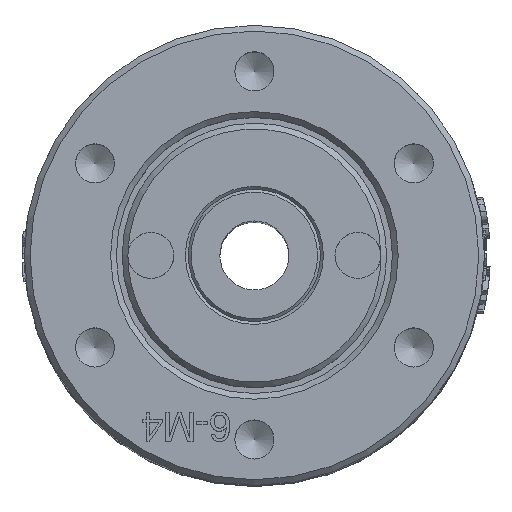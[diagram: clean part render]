
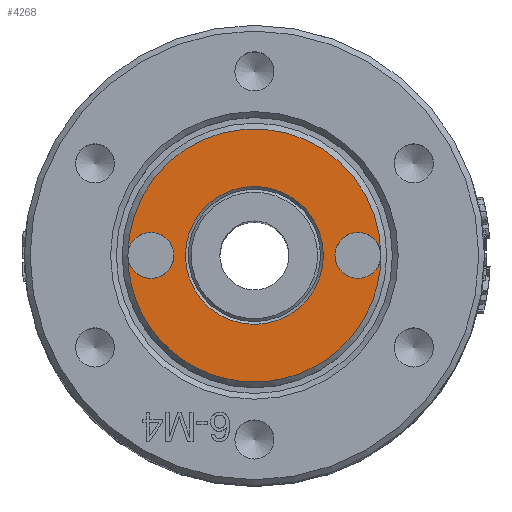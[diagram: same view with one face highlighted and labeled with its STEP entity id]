
A CAD part, top view. The second image highlights one B-rep face of the part: STEP entity #4268.
In plain terms, the highlighted planar face has unit normal (0, 0, 1).
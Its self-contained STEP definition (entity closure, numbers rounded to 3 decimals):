
#330=FACE_BOUND('',#6624,.T.);
#331=FACE_BOUND('',#6625,.T.);
#953=PLANE('',#21811);
#4268=ADVANCED_FACE('',(#330,#331),#953,.T.);
#6624=EDGE_LOOP('',(#13818,#13819,#13820,#13821));
#6625=EDGE_LOOP('',(#13822));
#13818=ORIENTED_EDGE('',*,*,#20349,.T.);
#13819=ORIENTED_EDGE('',*,*,#20347,.T.);
#13820=ORIENTED_EDGE('',*,*,#20348,.T.);
#13821=ORIENTED_EDGE('',*,*,#20346,.T.);
#13822=ORIENTED_EDGE('',*,*,#20351,.T.);
#17470=VERTEX_POINT('',#39999);
#17471=VERTEX_POINT('',#40002);
#17473=VERTEX_POINT('',#40010);
#20346=EDGE_CURVE('',#17470,#17470,#21012,.T.);
#20347=EDGE_CURVE('',#17471,#17471,#21013,.T.);
#20348=EDGE_CURVE('',#17471,#17470,#21014,.T.);
#20349=EDGE_CURVE('',#17470,#17471,#21015,.T.);
#20351=EDGE_CURVE('',#17473,#17473,#21017,.T.);
#21012=CIRCLE('',#21802,2.);
#21013=CIRCLE('',#21804,2.);
#21014=CIRCLE('',#21806,11.);
#21015=CIRCLE('',#21807,11.);
#21017=CIRCLE('',#21810,6.);
#21802=AXIS2_PLACEMENT_3D('',#39998,#24410,#24411);
#21804=AXIS2_PLACEMENT_3D('',#40001,#24414,#24415);
#21806=AXIS2_PLACEMENT_3D('',#40004,#24418,#24419);
#21807=AXIS2_PLACEMENT_3D('',#40005,#24420,#24421);
#21810=AXIS2_PLACEMENT_3D('',#40009,#24426,#24427);
#21811=AXIS2_PLACEMENT_3D('',#40011,#24428,#24429);
#24410=DIRECTION('',(0.,0.,-1.));
#24411=DIRECTION('',(1.,0.,0.));
#24414=DIRECTION('',(0.,0.,-1.));
#24415=DIRECTION('',(1.,0.,0.));
#24418=DIRECTION('',(0.,0.,1.));
#24419=DIRECTION('',(1.,0.,0.));
#24420=DIRECTION('',(0.,0.,1.));
#24421=DIRECTION('',(1.,0.,0.));
#24426=DIRECTION('',(0.,0.,-1.));
#24427=DIRECTION('',(1.,0.,0.));
#24428=DIRECTION('',(0.,0.,1.));
#24429=DIRECTION('',(1.,0.,0.));
#39998=CARTESIAN_POINT('',(-9.,0.,72.5));
#39999=CARTESIAN_POINT('',(-11.,0.,72.5));
#40001=CARTESIAN_POINT('',(9.,0.,72.5));
#40002=CARTESIAN_POINT('',(11.,0.,72.5));
#40004=CARTESIAN_POINT('',(0.,0.,72.5));
#40005=CARTESIAN_POINT('',(0.,0.,72.5));
#40009=CARTESIAN_POINT('',(0.,0.,72.5));
#40010=CARTESIAN_POINT('',(6.,0.,72.5));
#40011=CARTESIAN_POINT('',(0.,0.,72.5));
